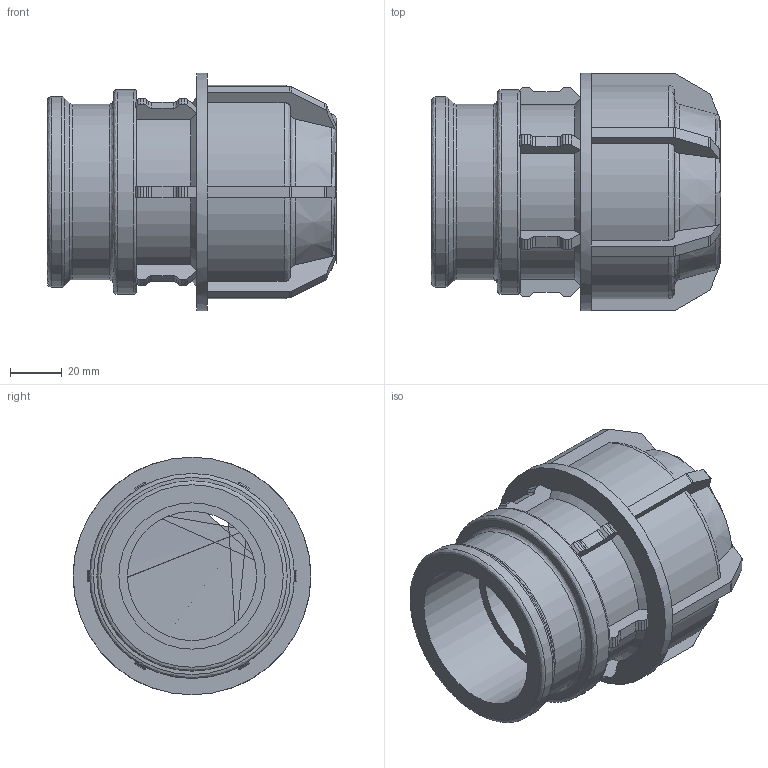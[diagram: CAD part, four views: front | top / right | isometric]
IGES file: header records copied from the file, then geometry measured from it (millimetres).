
Global section: file name: 140300050020.ipt; native system: Autodesk Inventor 2015; preprocessor: unknown; author: KIM; date: 20180409.131014; units: millimetre
Bounding box: 112 x 92 x 92 mm (x, y, z)
Volume: 259258.4 mm3; surface area: 60058.5 mm2
Topology: 1 solids, 1 shells, 259 faces, 736 edges, 474 vertices
Faces by surface type: plane 159, cylinder 52, revolution 35, cone 13
Full cylindrical faces by diameter (mm): 67.987 x1, 73.653 x1, 79.318 x1, 92 x1
